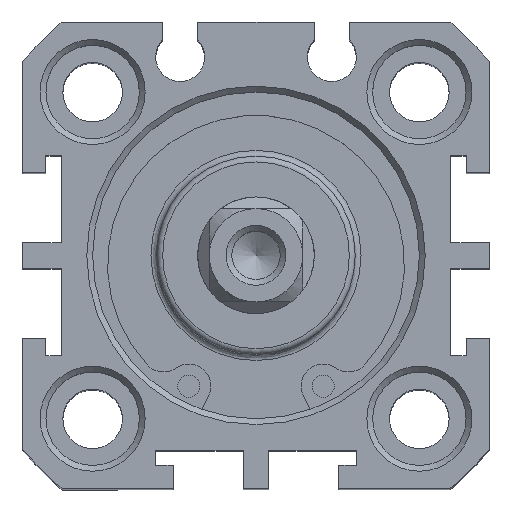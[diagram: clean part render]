
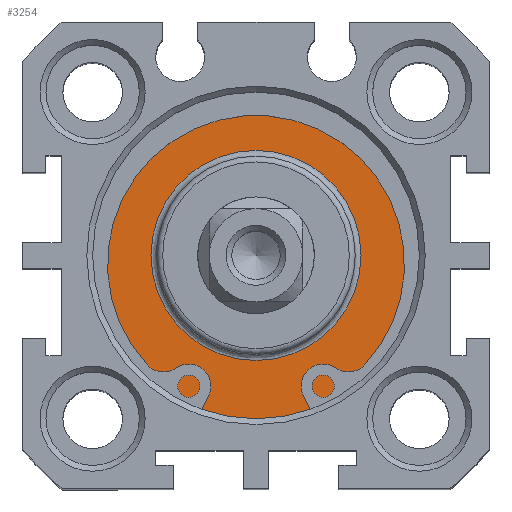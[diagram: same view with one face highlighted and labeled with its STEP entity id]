
A CAD part, top view. The second image highlights one B-rep face of the part: STEP entity #3254.
In plain terms, the highlighted planar face has unit normal (0, 0, 1).
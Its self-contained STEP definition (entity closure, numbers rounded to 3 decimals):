
#3203=CARTESIAN_POINT('',(-2.524,11.284,58.3));
#3204=VERTEX_POINT('',#3203);
#3205=CARTESIAN_POINT('',(-2.524,2.284,58.3));
#3206=DIRECTION('',(0.0,0.0,1.0));
#3207=DIRECTION('',(0.0,-1.0,0.0));
#3208=AXIS2_PLACEMENT_3D('',#3205,#3206,#3207);
#3209=CIRCLE('',#3208,9.);
#3210=EDGE_CURVE('',#3204,#3204,#3209,.T.);
#3235=CARTESIAN_POINT('',(-2.524,13.534,58.3));
#3236=DIRECTION('',(0.0,0.0,1.0));
#3237=DIRECTION('',(1.0,0.0,0.0));
#3238=AXIS2_PLACEMENT_3D('',#3235,#3236,#3237);
#3239=PLANE('',#3238);
#3240=CARTESIAN_POINT('',(-2.524,16.284,58.3));
#3241=VERTEX_POINT('',#3240);
#3242=CARTESIAN_POINT('',(-2.524,2.284,58.3));
#3243=DIRECTION('',(0.0,0.0,-1.0));
#3244=DIRECTION('',(0.0,1.0,0.0));
#3245=AXIS2_PLACEMENT_3D('',#3242,#3243,#3244);
#3246=CIRCLE('',#3245,14.0);
#3247=EDGE_CURVE('',#3241,#3241,#3246,.T.);
#3248=ORIENTED_EDGE('',*,*,#3247,.F.);
#3249=EDGE_LOOP('',(#3248));
#3250=FACE_OUTER_BOUND('',#3249,.T.);
#3251=ORIENTED_EDGE('',*,*,#3210,.F.);
#3252=EDGE_LOOP('',(#3251));
#3253=FACE_BOUND('',#3252,.T.);
#3254=ADVANCED_FACE('',(#3250,#3253),#3239,.T.);
